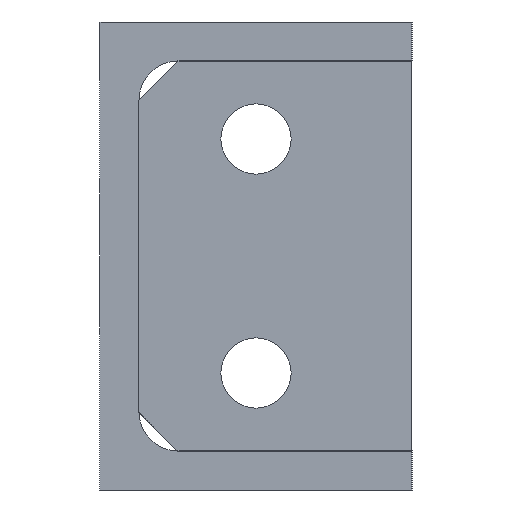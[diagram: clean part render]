
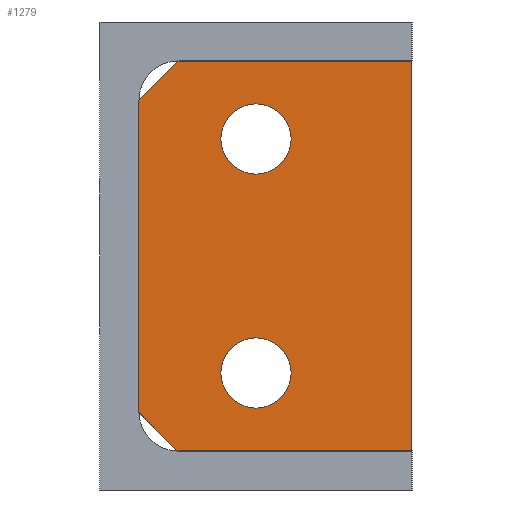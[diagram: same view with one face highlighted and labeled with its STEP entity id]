
A CAD part, left-side view. The second image highlights one B-rep face of the part: STEP entity #1279.
In plain terms, the highlighted planar face has unit normal (-1, 0, 0) as drawn and (0, 0, 1) by its records, which use the part's own axes.
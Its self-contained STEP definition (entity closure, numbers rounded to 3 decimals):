
#12 = DIRECTION ( 'NONE',  ( -0.707, 0.707, 0. ) ) ;
#16 = EDGE_CURVE ( 'NONE', #622, #304, #1235, .T. ) ;
#27 = VERTEX_POINT ( 'NONE', #124 ) ;
#43 = DIRECTION ( 'NONE',  ( -1., 0., 0. ) ) ;
#75 = CIRCLE ( 'NONE', #280, 4.5 ) ;
#81 = CARTESIAN_POINT ( 'NONE',  ( 0., 0., 5. ) ) ;
#112 = LINE ( 'NONE', #1431, #875 ) ;
#124 = CARTESIAN_POINT ( 'NONE',  ( 14.5, 20., 5. ) ) ;
#164 = DIRECTION ( 'NONE',  ( -1., 0., 0. ) ) ;
#174 = VECTOR ( 'NONE', #633, 1000. ) ;
#176 = VERTEX_POINT ( 'NONE', #1582 ) ;
#201 = DIRECTION ( 'NONE',  ( 1., 0., 0. ) ) ;
#216 = VERTEX_POINT ( 'NONE', #818 ) ;
#260 = LINE ( 'NONE', #647, #1312 ) ;
#279 = CARTESIAN_POINT ( 'NONE',  ( 0., 30., 5. ) ) ;
#280 = AXIS2_PLACEMENT_3D ( 'NONE', #1062, #1612, #1451 ) ;
#290 = EDGE_CURVE ( 'NONE', #341, #216, #698, .T. ) ;
#304 = VERTEX_POINT ( 'NONE', #741 ) ;
#325 = EDGE_LOOP ( 'NONE', ( #795, #1366 ) ) ;
#327 = DIRECTION ( 'NONE',  ( 0., 0., -1. ) ) ;
#341 = VERTEX_POINT ( 'NONE', #771 ) ;
#376 = EDGE_CURVE ( 'NONE', #176, #991, #503, .T. ) ;
#419 = VECTOR ( 'NONE', #1095, 1000. ) ;
#476 = DIRECTION ( 'NONE',  ( 1., 0., 0. ) ) ;
#486 = DIRECTION ( 'NONE',  ( 0., 0., 1. ) ) ;
#487 = EDGE_LOOP ( 'NONE', ( #702, #624, #911, #827, #997, #1585 ) ) ;
#503 = LINE ( 'NONE', #1545, #419 ) ;
#591 = FACE_BOUND ( 'NONE', #325, .T. ) ;
#622 = VERTEX_POINT ( 'NONE', #1632 ) ;
#624 = ORIENTED_EDGE ( 'NONE', *, *, #812, .T. ) ;
#625 = CARTESIAN_POINT ( 'NONE',  ( 0., 0., 5. ) ) ;
#632 = CARTESIAN_POINT ( 'NONE',  ( 40., 20., 5. ) ) ;
#633 = DIRECTION ( 'NONE',  ( 0., -1., 0. ) ) ;
#647 = CARTESIAN_POINT ( 'NONE',  ( 45., 35., 5. ) ) ;
#661 = CARTESIAN_POINT ( 'NONE',  ( 0., 0., 5. ) ) ;
#686 = EDGE_CURVE ( 'NONE', #27, #1415, #1286, .T. ) ;
#689 = VECTOR ( 'NONE', #201, 1000. ) ;
#698 = LINE ( 'NONE', #1191, #1080 ) ;
#702 = ORIENTED_EDGE ( 'NONE', *, *, #376, .T. ) ;
#741 = CARTESIAN_POINT ( 'NONE',  ( 44.5, 20., 5. ) ) ;
#745 = CARTESIAN_POINT ( 'NONE',  ( 10., 20., 5. ) ) ;
#771 = CARTESIAN_POINT ( 'NONE',  ( 45., 35., 5. ) ) ;
#795 = ORIENTED_EDGE ( 'NONE', *, *, #1391, .F. ) ;
#812 = EDGE_CURVE ( 'NONE', #991, #341, #260, .T. ) ;
#818 = CARTESIAN_POINT ( 'NONE',  ( 5., 35., 5. ) ) ;
#827 = ORIENTED_EDGE ( 'NONE', *, *, #1478, .T. ) ;
#846 = CIRCLE ( 'NONE', #1311, 4.5 ) ;
#864 = CARTESIAN_POINT ( 'NONE',  ( 50., 30., 5. ) ) ;
#875 = VECTOR ( 'NONE', #1402, 1000. ) ;
#890 = ORIENTED_EDGE ( 'NONE', *, *, #1205, .F. ) ;
#907 = CARTESIAN_POINT ( 'NONE',  ( 5.5, 20., 5. ) ) ;
#911 = ORIENTED_EDGE ( 'NONE', *, *, #290, .T. ) ;
#913 = EDGE_CURVE ( 'NONE', #1245, #176, #1098, .T. ) ;
#942 = EDGE_CURVE ( 'NONE', #1653, #1245, #1136, .T. ) ;
#991 = VERTEX_POINT ( 'NONE', #864 ) ;
#997 = ORIENTED_EDGE ( 'NONE', *, *, #942, .T. ) ;
#1049 = PLANE ( 'NONE',  #1072 ) ;
#1062 = CARTESIAN_POINT ( 'NONE',  ( 10., 20., 5. ) ) ;
#1072 = AXIS2_PLACEMENT_3D ( 'NONE', #81, #327, #164 ) ;
#1080 = VECTOR ( 'NONE', #43, 1000. ) ;
#1095 = DIRECTION ( 'NONE',  ( 0., 1., 0. ) ) ;
#1098 = LINE ( 'NONE', #1362, #689 ) ;
#1136 = LINE ( 'NONE', #625, #174 ) ;
#1181 = DIRECTION ( 'NONE',  ( 1., 0., 0. ) ) ;
#1191 = CARTESIAN_POINT ( 'NONE',  ( 0., 35., 5. ) ) ;
#1200 = ORIENTED_EDGE ( 'NONE', *, *, #686, .F. ) ;
#1205 = EDGE_CURVE ( 'NONE', #1415, #27, #75, .T. ) ;
#1235 = CIRCLE ( 'NONE', #1509, 4.5 ) ;
#1245 = VERTEX_POINT ( 'NONE', #661 ) ;
#1279 = ADVANCED_FACE ( 'NONE', ( #1430, #591, #1571 ), #1049, .F. ) ;
#1286 = CIRCLE ( 'NONE', #1337, 4.5 ) ;
#1311 = AXIS2_PLACEMENT_3D ( 'NONE', #1498, #1523, #1642 ) ;
#1312 = VECTOR ( 'NONE', #12, 1000. ) ;
#1337 = AXIS2_PLACEMENT_3D ( 'NONE', #745, #486, #476 ) ;
#1362 = CARTESIAN_POINT ( 'NONE',  ( 0., 0., 5. ) ) ;
#1366 = ORIENTED_EDGE ( 'NONE', *, *, #16, .F. ) ;
#1391 = EDGE_CURVE ( 'NONE', #304, #622, #846, .T. ) ;
#1402 = DIRECTION ( 'NONE',  ( -0.707, -0.707, 0. ) ) ;
#1415 = VERTEX_POINT ( 'NONE', #907 ) ;
#1430 = FACE_BOUND ( 'NONE', #1535, .T. ) ;
#1431 = CARTESIAN_POINT ( 'NONE',  ( 0., 30., 5. ) ) ;
#1451 = DIRECTION ( 'NONE',  ( 1., 0., 0. ) ) ;
#1478 = EDGE_CURVE ( 'NONE', #216, #1653, #112, .T. ) ;
#1498 = CARTESIAN_POINT ( 'NONE',  ( 40., 20., 5. ) ) ;
#1509 = AXIS2_PLACEMENT_3D ( 'NONE', #632, #1566, #1181 ) ;
#1523 = DIRECTION ( 'NONE',  ( 0., 0., 1. ) ) ;
#1535 = EDGE_LOOP ( 'NONE', ( #1200, #890 ) ) ;
#1545 = CARTESIAN_POINT ( 'NONE',  ( 50., 0., 5. ) ) ;
#1566 = DIRECTION ( 'NONE',  ( 0., 0., 1. ) ) ;
#1571 = FACE_OUTER_BOUND ( 'NONE', #487, .T. ) ;
#1582 = CARTESIAN_POINT ( 'NONE',  ( 50., 0., 5. ) ) ;
#1585 = ORIENTED_EDGE ( 'NONE', *, *, #913, .T. ) ;
#1612 = DIRECTION ( 'NONE',  ( 0., 0., 1. ) ) ;
#1632 = CARTESIAN_POINT ( 'NONE',  ( 35.5, 20., 5. ) ) ;
#1642 = DIRECTION ( 'NONE',  ( 1., 0., 0. ) ) ;
#1653 = VERTEX_POINT ( 'NONE', #279 ) ;
